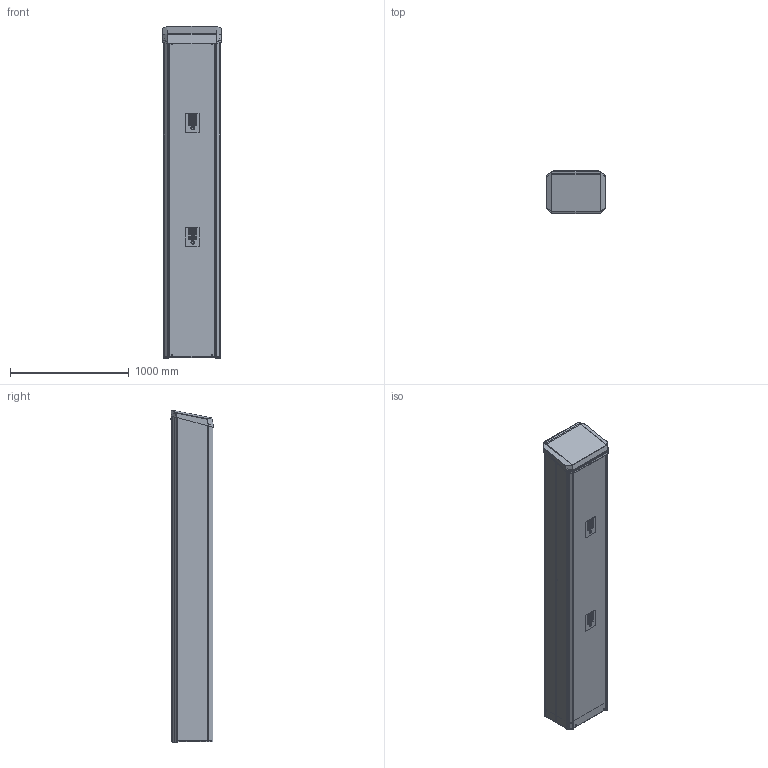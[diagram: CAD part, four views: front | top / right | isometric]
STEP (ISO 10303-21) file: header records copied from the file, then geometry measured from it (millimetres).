
FILE_DESCRIPTION(/* description */ ('Unknown'),/* implementation_level */ '2;1');
FILE_NAME(/* name */ '55860021_01',/* time_stamp */ '2023-03-07T07:43:54+01:00',/* author */ ('Unknown'),/* organization */ ('Unknown'),/* preprocessor_version */ 'ST-DEVELOPER v18.102',/* originating_system */ 'Solid Edge',/* authorisation */ 'Unknown');
FILE_SCHEMA (('AUTOMOTIVE_DESIGN {1 0 10303 214 3 1 1}'));
Products named in the file (67): 55860021; TERMINAL-MXXL-A000; 20195116_0; 20195116a_0; Schweissmutter_DIN929_M5_0; 21085166; 21085165; 20295957_0; 20295958_0; 20345603_0; 20345601_0; 20345760_0; 20345600_0; 20345761_0; 30545025_20295957_0; 20695069_0; 30545025_TERMXXL_01; 20775102; 30545025_TERMXXL_02; 20775103; TERMINAL-MXXL-A000b; 20675102_0; Einpress-Gewindebolzen-M4x10_0; 20345749_0; 35130011_0; 33065003_0; 20436071; 20075011_0; TERMINAL-MXXL-A000a; 20715102_0; Einpressmutter-M5_0; 20675105; Einpress-Gewindebolzen-M4x12_0; 20715103; 34685026_0; 34685026a_0; 34685026c_0; 34685026b_0; 34685026d_0; 20185338_0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
Assembly tree (185 placements, depth 5):
  55860021
    TERMINAL-MXXL-A000
      20195116_0  x2
        20195116a_0
        Schweissmutter_DIN929_M5_0
      21085166
      21085165
      20295957_0
        20295958_0
        20345603_0  x2
        20345601_0  x2
        20345760_0
        20345600_0  x2
        20345761_0
      30545025_20295957_0
      20695069_0  x4
      30545025_TERMXXL_01  x3
      20775102  x2
      30545025_TERMXXL_02  x2
      20775103  x2
      TERMINAL-MXXL-A000b
        20675102_0
          20675102_0
          Einpress-Gewindebolzen-M4x10_0  x6
        20345749_0
        35130011_0  x6
        33065003_0  x6
      20436071
      20075011_0  x4
      TERMINAL-MXXL-A000a
        20715102_0
          20715102_0
          Einpressmutter-M5_0  x8
        20675105
          20675105
          Einpress-Gewindebolzen-M4x12_0  x18
        35130011_0  x18
        33065003_0  x18
        20715103
          20715103
          Einpressmutter-M5_0  x8
        34685026_0  x2
          34685026a_0
          34685026c_0
          34685026b_0
          34685026d_0
        20185338_0
        20585079_0  x2
        30545025_TERMXXL_01
      34955000_0  x4
      34865060_0  x4
      20435637_0  x2
      31380010_0  x2
      30545025_TERMXXL_05
      10715050
        10715050e
        10715050f  x2
        10715050a
          10715050b
          Schweissmutter_DIN929_M10_0  x2
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Bounding box: 497.14 x 367.05 x 2795.3 mm (x, y, z)
Volume: 21348516.9 mm3; surface area: 13897599.9 mm2
Topology: 182 solids, 184 shells, 8050 faces, 19447 edges, 11669 vertices
Faces by surface type: cylinder 3002, plane 2979, bspline 1275, cone 346, torus 338, sphere 110
Full cylindrical faces by diameter (mm): 3.242 x24, 4 x48, 4.134 x4, 4.4 x24, 4.5 x24, 4.917 x16, 5 x4, 5.5 x27, 5.9 x24, 5.98 x4, 6 x2, 6.4 x16, 7 x28, 7.1 x6, 8.16 x4, 8.376 x6, 8.72 x16, 9 x1, 10 x16, 10.2 x2, 10.5 x8, 10.557 x16, 11.1 x16, 12.5 x6, 14.5 x2, 14.63 x4, 16 x2, 17 x2, 18 x4, 19 x2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
Entity records: 116851 total; most frequent: CARTESIAN_POINT 29377, ORIENTED_EDGE 16994, DIRECTION 16986, EDGE_CURVE 8497, AXIS2_PLACEMENT_3D 5990, VERTEX_POINT 5352, LINE 5006, VECTOR 5006
